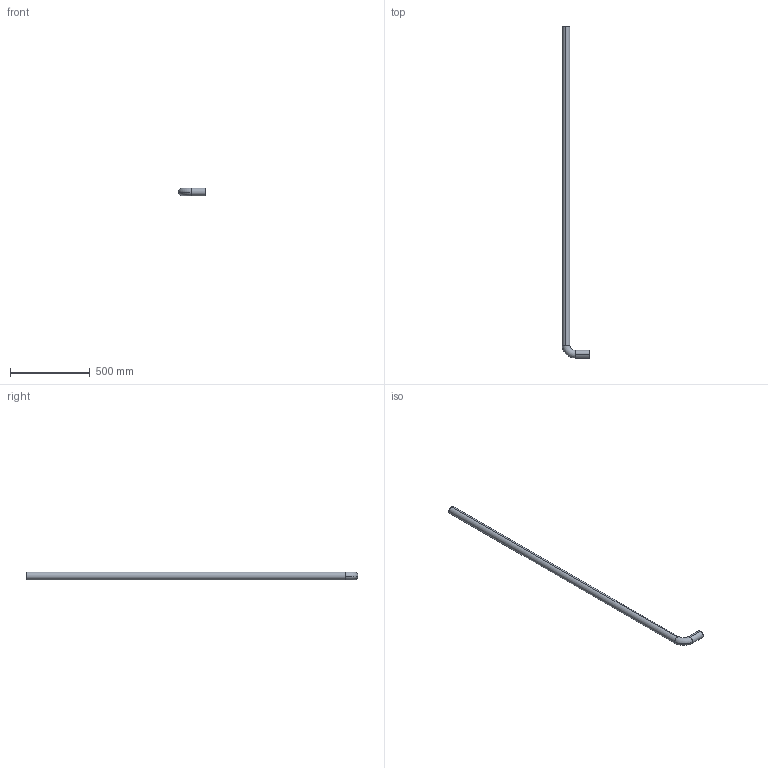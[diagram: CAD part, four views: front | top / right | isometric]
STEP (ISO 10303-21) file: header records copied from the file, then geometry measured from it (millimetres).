
FILE_DESCRIPTION (( 'STEP AP214' ), '1' );
FILE_NAME ('CCJ029-REP.337 - MAIN COURANTE PLATEFORME SUPERIEURE A1-B1.STEP', '2025-11-12T12:37:11', ( '' ), ( '' ), 'SwSTEP 2.0', 'SolidWorks 2021', '' );
FILE_SCHEMA (( 'AUTOMOTIVE_DESIGN' ));
Length unit declared in the file: millimetre
Products named in the file (1): CCJ029-REP.337 - MAIN COURANTE PLATEFORME SUPERIEURE A1-B1
Bounding box: 174.15 x 2087.15 x 48.3 mm (x, y, z)
Volume: 787243.2 mm3; surface area: 630514 mm2
Topology: 1 solids, 1 shells, 14 faces, 36 edges, 24 vertices
Faces by surface type: cylinder 8, torus 4, plane 2
Entity records: 486 total; most frequent: DIRECTION 94, CARTESIAN_POINT 75, ORIENTED_EDGE 72, AXIS2_PLACEMENT_3D 43, EDGE_CURVE 36, CIRCLE 28, VERTEX_POINT 24, EDGE_LOOP 16
